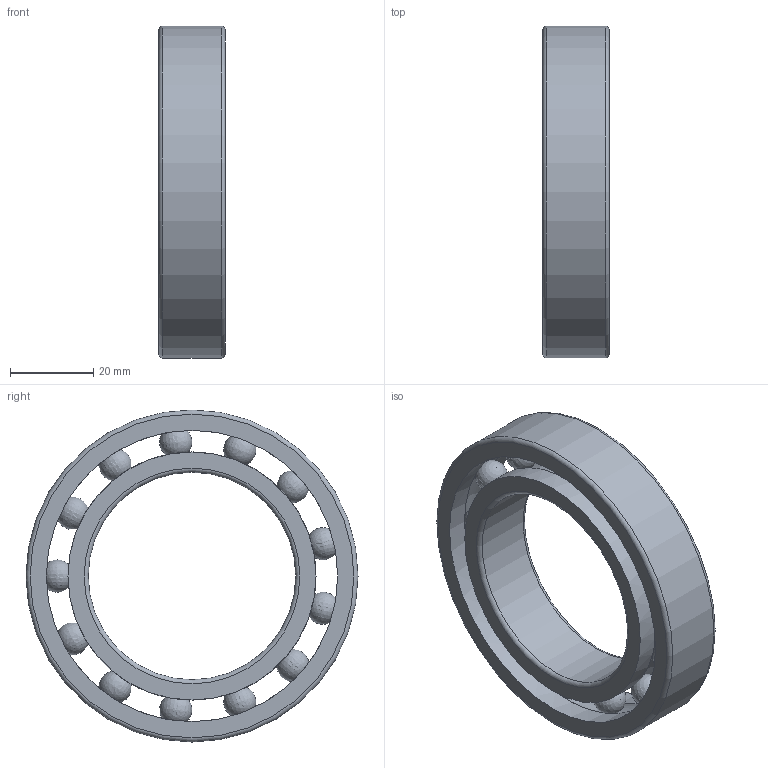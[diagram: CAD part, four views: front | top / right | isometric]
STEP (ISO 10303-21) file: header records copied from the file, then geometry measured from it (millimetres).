
FILE_DESCRIPTION(/* description */ ('깊은 그루브 볼 베어링'),/* implementation_level */ '2;1');
FILE_NAME(/* name */ '',/* time_stamp */ '2026-04-27T11:36:34+09:00',/* author */ ('jhkim'),/* organization */ (''),/* preprocessor_version */ 'ST-DEVELOPER v20.1',/* originating_system */ 'Autodesk Inventor 2027',/* authorisation */ '');
FILE_SCHEMA (('AUTOMOTIVE_DESIGN { 1 0 10303 214 3 1 1 }'));
Length unit declared in the file: millimetre
Products named in the file (1): 깊은 홈 볼 베어링 
6010
Bounding box: 16 x 80 x 80 mm (x, y, z)
Volume: 32894.5 mm3; surface area: 19498.7 mm2
Topology: 15 solids, 15 shells, 53 faces, 147 edges, 98 vertices
Faces by surface type: torus 30, sphere 13, cylinder 6, plane 4
Full cylindrical faces by diameter (mm): 50 x1, 59.78 x2, 70.22 x2, 80 x1
Entity records: 2047 total; most frequent: DIRECTION 396, CARTESIAN_POINT 351, ORIENTED_EDGE 294, AXIS2_PLACEMENT_3D 195, VERTEX_POINT 150, EDGE_CURVE 147, CIRCLE 141, EDGE_LOOP 83
